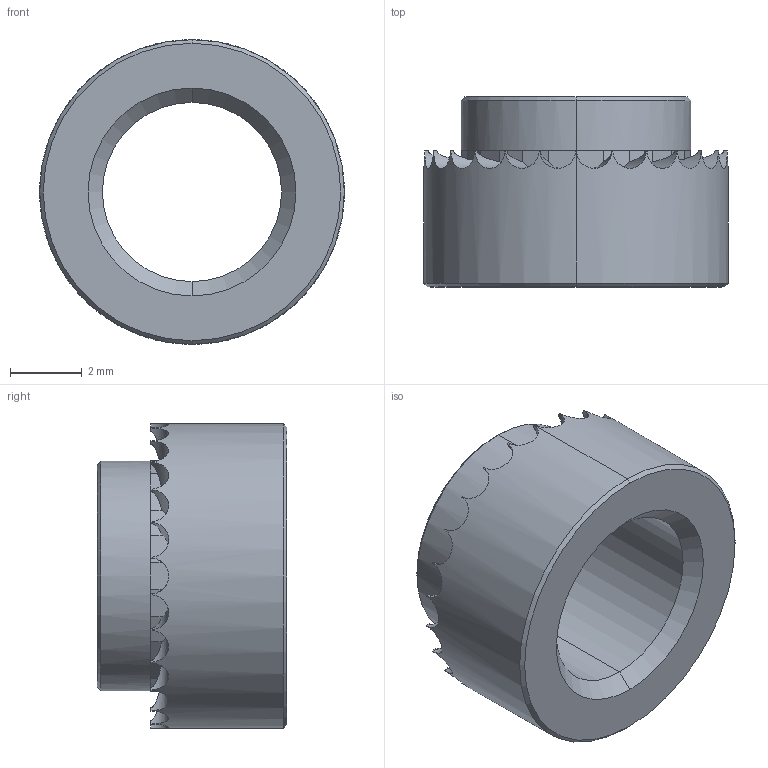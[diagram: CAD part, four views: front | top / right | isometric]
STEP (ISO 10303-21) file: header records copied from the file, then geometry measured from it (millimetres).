
FILE_DESCRIPTION (( 'STEP AP203' ), '1' );
FILE_NAME ('P0829.050-20G-ZP.step', '2019-03-21T22:16:38', ( '' ), ( '' ), 'SwSTEP 2.0', 'SolidWorks 2017', '' );
FILE_SCHEMA (( 'CONFIG_CONTROL_DESIGN' ));
Length unit declared in the file: millimetre
Products named in the file (1): P0829.050-20G-ZP
Bounding box: 8.5 x 5.3 x 8.5 mm (x, y, z)
Volume: 146.8 mm3; surface area: 285.3 mm2
Topology: 1 solids, 1 shells, 120 faces, 294 edges, 176 vertices
Faces by surface type: plane 80, cylinder 32, cone 8
Entity records: 3739 total; most frequent: CARTESIAN_POINT 903, ORIENTED_EDGE 588, DIRECTION 582, EDGE_CURVE 294, AXIS2_PLACEMENT_3D 219, VERTEX_POINT 176, VECTOR 144, LINE 144
